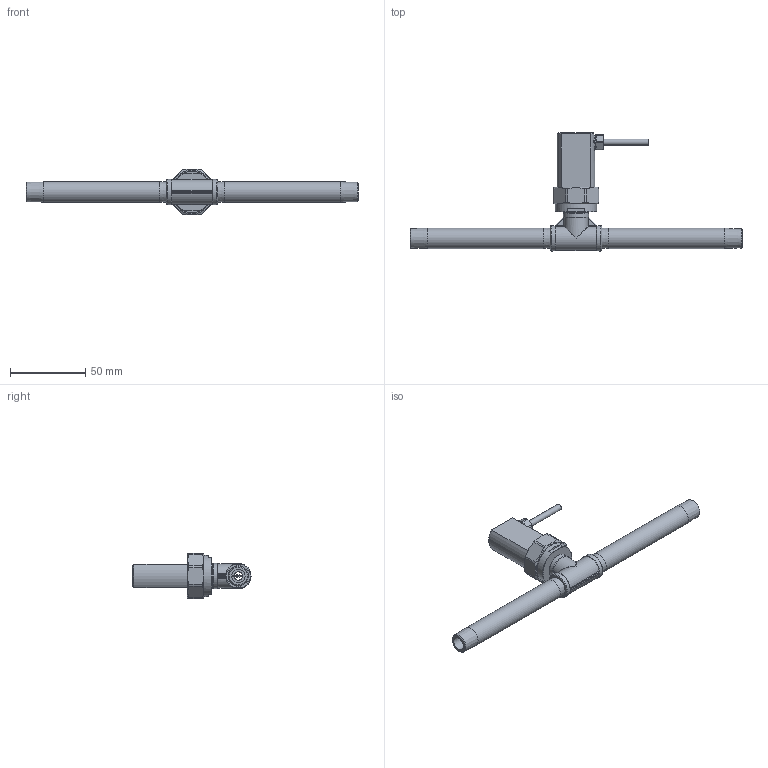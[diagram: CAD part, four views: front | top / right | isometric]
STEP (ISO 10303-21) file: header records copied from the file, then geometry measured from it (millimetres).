
FILE_DESCRIPTION(/* description */ (''),/* implementation_level */ '2;1');
FILE_NAME(/* name */ 'Mini-IL 30.208 mit Messstreckenrohr.stp',/* time_stamp */ '2025-07-15T10:39:37+02:00',/* author */ (''),/* organization */ (''),/* preprocessor_version */ 'ST-DEVELOPER v19.4',/* originating_system */ 'SIEMENS PLM Software NX2306.8501',/* authorisation */ '');
FILE_SCHEMA (('AP203_CONFIGURATION_CONTROLLED_3D_DESIGN_OF_MECHANICAL_PARTS_AND_ASSEMBLIES_MIM_LF { 1 0 10303 403 2 1 2}'));
Length unit declared in the file: millimetre
Products named in the file (1): 01_objects
Bounding box: 220 x 78.2 x 30 mm (x, y, z)
Volume: 46009.4 mm3; surface area: 25334.8 mm2
Topology: 1 solids, 1 shells, 220 faces, 581 edges, 367 vertices
Faces by surface type: plane 99, cylinder 56, cone 29, bspline 23, torus 9, sphere 4
Full cylindrical faces by diameter (mm): 4 x1, 8 x1, 8.9 x2, 11 x2, 11.1 x1, 11.2 x1, 13.5 x2, 16.8 x2, 27.3 x1, 27.4 x1
Entity records: 9056 total; most frequent: CARTESIAN_POINT 4130, ORIENTED_EDGE 1016, DIRECTION 921, EDGE_CURVE 508, AXIS2_PLACEMENT_3D 350, VERTEX_POINT 346, EDGE_LOOP 284, LINE 221
